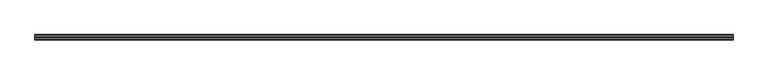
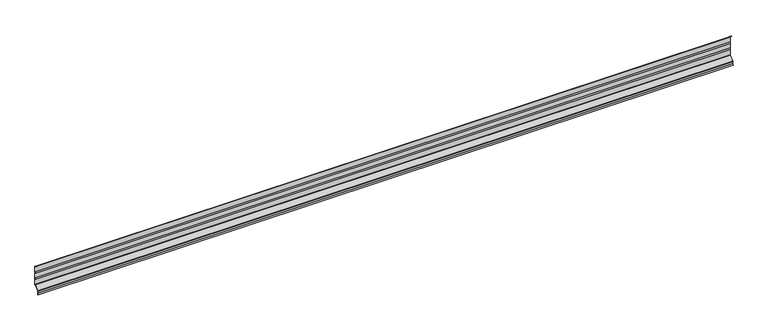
"""IFC4 building model written with IfcOpenShell, lengths in millimetres: plate geometry, HIANSA - H20.F09.003-CHAPA PERFILADA FACHADA HORIZONTAL - MT32F - Panel de Muro Cortina : -."""

from ifc_helpers import new_model, si_unit, point, frame, frame_2d, origin, place, context, project, spatial, polyline, circle_curve, trimmed, segment, composite_curve, outline, extrude, source, transform, mapped, element, save


def plate_f07ee746(model_context):
    return source(origin(), model_context, "Body", "SweptSolid", [
        extrude(outline(composite_curve([segment(trimmed(circle_curve(frame_2d((-28.9, 13.5441549)), 2.6), [point((-30.5163104, 15.580706))], [point((-31.5, 13.5441549))], True, "CARTESIAN"), True, "CONTINUOUS"), segment(polyline([(-31.5, 13.5441549), (-31.5, -0.0841656), (-33.248321, -8.3011514), (-34.0662289, -8.3011514), (-32.3, 0.0), (-32.3, 13.5441549)]), True, "CONTINUOUS"), segment(trimmed(circle_curve(frame_2d((-28.9, 13.5441549)), 3.4), [point((-32.3, 13.5441549))], [point((-31.0136367, 16.2073371))], False, "CARTESIAN"), True, "CONTINUOUS"), segment(polyline([(-31.0136367, 16.2073371), (-1.7836896, 39.4057079)]), True, "CONTINUOUS"), segment(trimmed(circle_curve(frame_2d((-3.4, 41.442259)), 2.6), [point((-1.7836896, 39.4057079))], [point((-0.8, 41.442259))], True, "CARTESIAN"), True, "CONTINUOUS"), segment(polyline([(-0.8, 41.442259), (-0.8, 73.9336996)]), True, "CONTINUOUS"), segment(trimmed(circle_curve(frame_2d((17.1, 80.0)), 18.9), [point((-0.8, 73.9336996))], [point((-0.8, 86.0663004))], False, "CARTESIAN"), True, "CONTINUOUS"), segment(polyline([(-0.8, 86.0663004), (-0.8, 113.9336996)]), True, "CONTINUOUS"), segment(trimmed(circle_curve(frame_2d((17.1, 120.0)), 18.9), [point((-0.8, 113.9336996))], [point((-0.8, 126.0663004))], False, "CARTESIAN"), True, "CONTINUOUS"), segment(polyline([(-0.8, 126.0663004), (-0.8, 158.557741)]), True, "CONTINUOUS"), segment(trimmed(circle_curve(frame_2d((-3.4, 158.557741)), 2.6), [point((-0.8, 158.557741))], [point((-1.7836896, 160.5942921))], True, "CARTESIAN"), True, "CONTINUOUS"), segment(polyline([(-1.7836896, 160.5942921), (-17.4148815, 173.0), (-16.128, 173.0), (-1.2863633, 161.2209232)]), True, "CONTINUOUS"), segment(trimmed(circle_curve(frame_2d((-3.4, 158.557741)), 3.4), [point((-1.2863633, 161.2209232))], [point((0.0, 158.557741))], False, "CARTESIAN"), True, "CONTINUOUS"), segment(polyline([(0.0, 158.557741), (0.0, 125.9329588)]), True, "CONTINUOUS"), segment(trimmed(circle_curve(frame_2d((17.1, 120.0)), 18.1), [point((0.0, 125.9329588))], [point((0.0, 114.0670412))], True, "CARTESIAN"), True, "CONTINUOUS"), segment(polyline([(0.0, 114.0670412), (0.0, 85.9329588)]), True, "CONTINUOUS"), segment(trimmed(circle_curve(frame_2d((17.1, 80.0)), 18.1), [point((0.0, 85.9329588))], [point((0.0, 74.0670412))], True, "CARTESIAN"), True, "CONTINUOUS"), segment(polyline([(0.0, 74.0670412), (0.0, 41.442259)]), True, "CONTINUOUS"), segment(trimmed(circle_curve(frame_2d((-3.4, 41.442259)), 3.4), [point((0.0, 41.442259))], [point((-1.2863633, 38.7790768))], False, "CARTESIAN"), True, "CONTINUOUS"), segment(polyline([(-1.2863633, 38.7790768), (-30.5163104, 15.580706)]), True, "CONTINUOUS")], self_intersect=False)), frame((-2200.0, 0.0, 0.0), z_axis=(1.0, 0.0, 0.0), x_axis=(0.0, 1.0, 0.0)), (0.0, 0.0, 1.0), 4400.0),
    ])


if __name__ == "__main__":
    model = new_model("IFC4")
    model_context = context("Model", 3, world=origin())
    ifc_project = project(units=[si_unit("LENGTHUNIT", "METRE", prefix="MILLI")], contexts=[model_context])
    site = spatial("IfcSite", under=ifc_project)
    building = spatial("IfcBuilding", under=site)
    placement = place(None, origin())
    plate_shape = plate_f07ee746(model_context)
    element("IfcPlate", 1, ObjectType="HIANSA - H20.F09.003-CHAPA PERFILADA FACHADA HORIZONTAL - MT32F - Panel de Muro Cortina : -", at=placement, inside=building, context=model_context, shape_type="MappedRepresentation", body=[
        mapped(plate_shape, transform((0.0, 0.0, 0.0), x_axis=(1.0, 0.0, 0.0), y_axis=(0.0, 1.0, 0.0), z_axis=(0.0, 0.0, 1.0))),
    ])
    save(model, "model.ifc")
